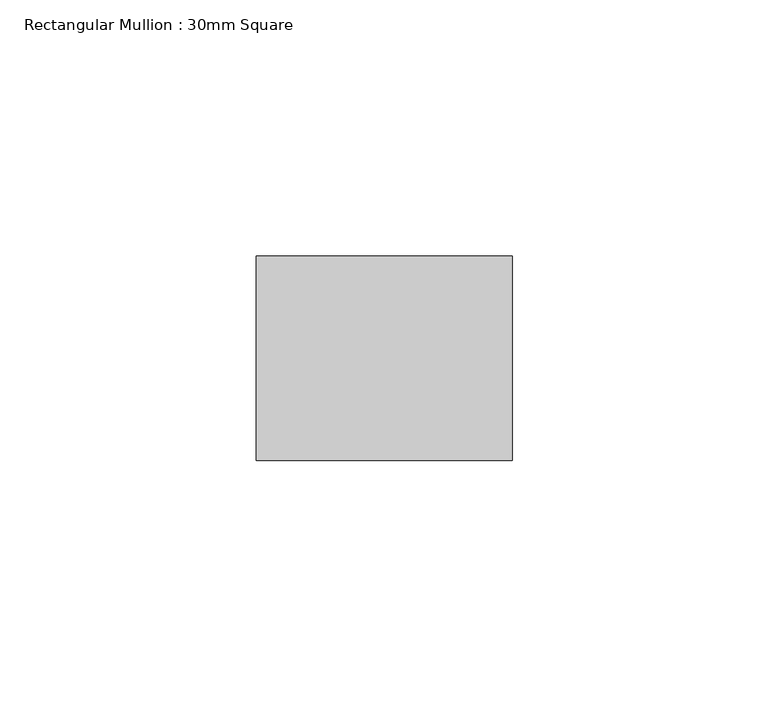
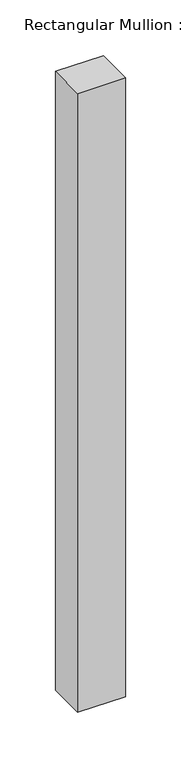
"""IFC4 building model written with IfcOpenShell, lengths in millimetres: member geometry, Rectangular Mullion : 30mm Square."""

from ifc_helpers import new_model, si_unit, frame, origin, place, context, project, spatial, polyline, outline, extrude, source, transform, mapped, element, save


def rectangular_mullion_30mm_square_78a9478a(model_context):
    return source(origin(), model_context, "Body", "SweptSolid", [
        extrude(outline(polyline([(0.0, 20.0), (0.0, -20.0), (-50.0, -20.0), (-50.0, 20.0), (0.0, 20.0)])), frame((0.0, 0.0, -680.0), z_axis=(0.0, 0.0, 1.0), x_axis=(1.0, 0.0, 0.0)), (0.0, 0.0, 1.0), 680.0),
    ])


if __name__ == "__main__":
    model = new_model("IFC4")
    model_context = context("Model", 3, world=origin())
    ifc_project = project(units=[si_unit("LENGTHUNIT", "METRE", prefix="MILLI")], contexts=[model_context])
    site = spatial("IfcSite", under=ifc_project)
    building = spatial("IfcBuilding", under=site)
    placement = place(None, origin())
    rectangular_mullion_30mm_square_shape = rectangular_mullion_30mm_square_78a9478a(model_context)
    element("IfcMember", 1, ObjectType="Rectangular Mullion : 30mm Square", at=placement, inside=building, context=model_context, shape_type="MappedRepresentation", body=[
        mapped(rectangular_mullion_30mm_square_shape, transform((0.0, 0.0, 0.0), x_axis=(1.0, 0.0, 0.0), y_axis=(0.0, 1.0, 0.0), z_axis=(0.0, 0.0, 1.0))),
    ])
    save(model, "model.ifc")
